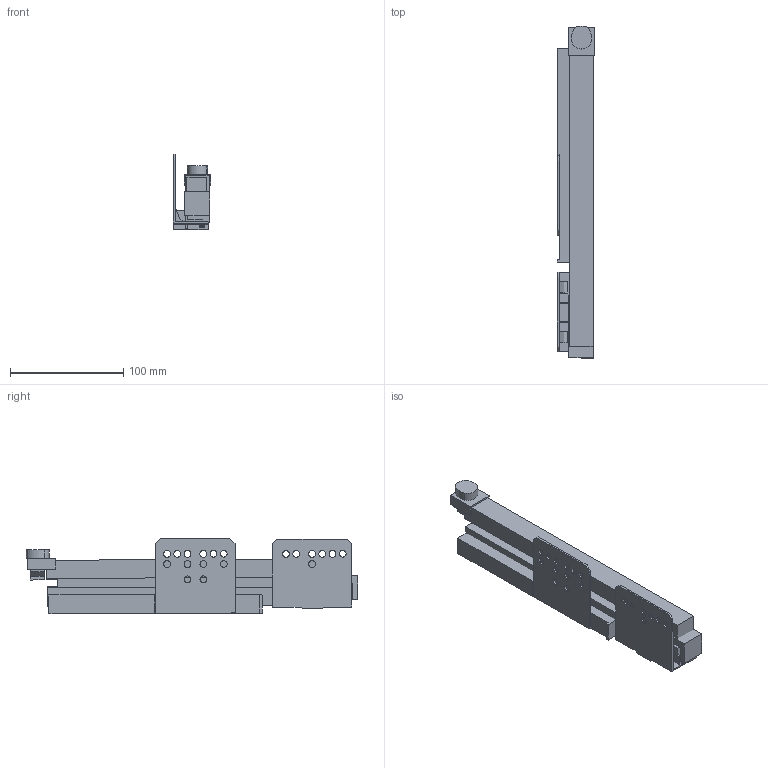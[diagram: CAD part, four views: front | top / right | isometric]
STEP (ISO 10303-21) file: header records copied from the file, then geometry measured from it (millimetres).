
FILE_DESCRIPTION (( 'STEP AP214' ), '1' );
FILE_NAME ('_IMOS Dynamic-XP VA 40kg NL275 LI Tipmatic.step', '2010-07-08T13:25:54', ( 'grass' ), ( '' ), 'SwSTEP 2.0', 'SolidWorks 2010', '' );
FILE_SCHEMA (( 'AUTOMOTIVE_DESIGN' ));
Length unit declared in the file: millimetre
Products named in the file (1): _IMOS Dynamic-XP VA 40kg NL275 LI Tipmatic
Bounding box: 33.14 x 293.02 x 66.67 mm (x, y, z)
Volume: 305219.2 mm3; surface area: 116378.5 mm2
Topology: 8 solids, 8 shells, 184 faces, 496 edges, 330 vertices
Faces by surface type: plane 137, cylinder 47
Entity records: 5917 total; most frequent: CARTESIAN_POINT 1011, ORIENTED_EDGE 992, DIRECTION 962, EDGE_CURVE 496, LINE 400, VECTOR 400, VERTEX_POINT 330, AXIS2_PLACEMENT_3D 281
